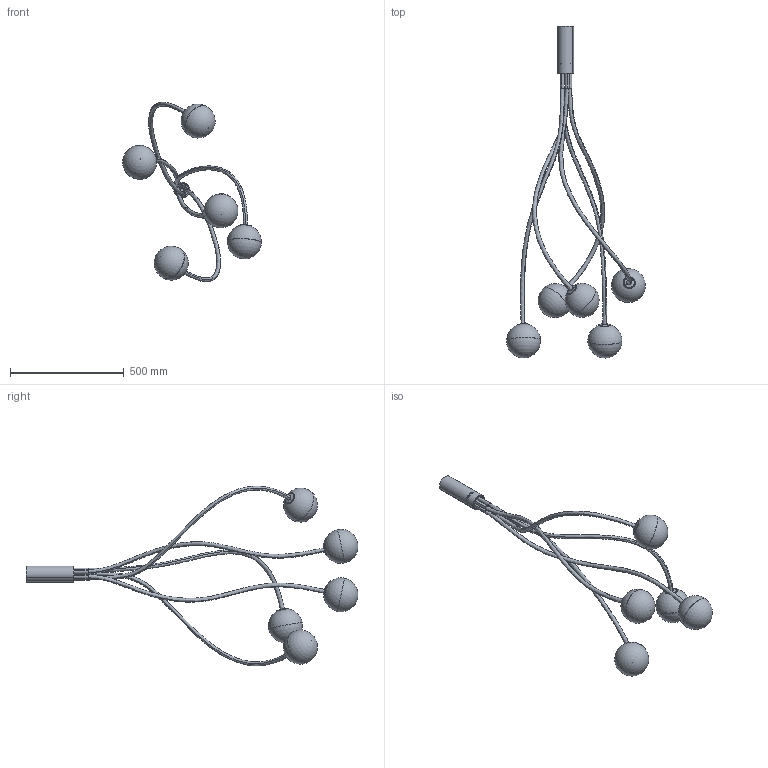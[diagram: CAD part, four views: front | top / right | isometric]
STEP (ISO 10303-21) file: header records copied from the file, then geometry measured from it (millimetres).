
FILE_DESCRIPTION (( 'STEP AP203' ), '1' );
FILE_NAME ('PL307ABINT.STEP', '2024-02-06T10:09:44', ( '' ), ( '' ), 'SwSTEP 2.0', 'SolidWorks 2019', '' );
FILE_SCHEMA (( 'CONFIG_CONTROL_DESIGN' ));
Length unit declared in the file: millimetre
Products named in the file (11): 10CP307GZ; 10CP307EZ; 10CP307SZ; Parte7^PL307ABINT; 10CP307VT; Parte4^PL307ABINT; 10CP307DZ; 7000098_2_dado tige; Parte5^PL307ABINT; 10CP307FZ; PL307ABINT
Assembly tree (28 placements, depth 2):
  PL307ABINT
    10CP307SZ
    10CP307EZ
    10CP307FZ
    Parte4^PL307ABINT  x2
    Parte5^PL307ABINT  x2
    Parte7^PL307ABINT
    10CP307VT  x5
    10CP307GZ  x5
    10CP307DZ  x5
    7000098_2_dado tige  x5
Bounding box: 610.62 x 1459.74 x 789.53 mm (x, y, z)
Volume: 2738452 mm3; surface area: 1171568.7 mm2
Topology: 28 solids, 28 shells, 572 faces, 1397 edges, 884 vertices
Faces by surface type: cylinder 252, plane 139, cone 99, bspline 50, sphere 30, torus 2
Entity records: 18032 total; most frequent: CARTESIAN_POINT 10610, ORIENTED_EDGE 1226, DIRECTION 1208, EDGE_CURVE 613, AXIS2_PLACEMENT_3D 486, VERTEX_POINT 388, EDGE_LOOP 289, FACE_OUTER_BOUND 252
